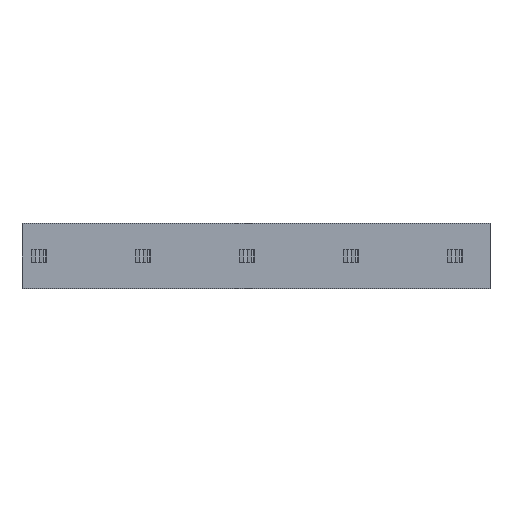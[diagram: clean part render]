
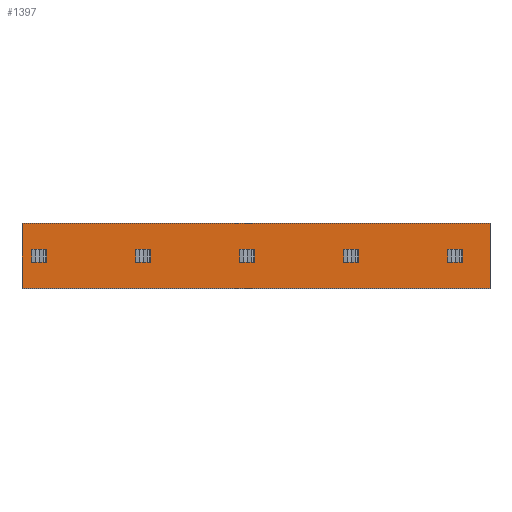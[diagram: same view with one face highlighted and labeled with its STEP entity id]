
A CAD part, top view. The second image highlights one B-rep face of the part: STEP entity #1397.
In plain terms, the highlighted planar face has unit normal (0, 0, 1).
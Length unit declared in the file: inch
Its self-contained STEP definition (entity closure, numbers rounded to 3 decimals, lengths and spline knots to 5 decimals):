
#119=FACE_OUTER_BOUND('',#217,.T.);
#217=EDGE_LOOP('',(#939,#940,#941,#942));
#311=LINE('',#2104,#467);
#315=LINE('',#2112,#471);
#318=LINE('',#2118,#474);
#321=LINE('',#2123,#477);
#467=VECTOR('',#1648,10.);
#471=VECTOR('',#1654,72.);
#474=VECTOR('',#1659,10.);
#477=VECTOR('',#1664,72.);
#623=VERTEX_POINT('',#2102);
#624=VERTEX_POINT('',#2103);
#627=VERTEX_POINT('',#2111);
#629=VERTEX_POINT('',#2117);
#727=EDGE_CURVE('',#623,#624,#311,.T.);
#731=EDGE_CURVE('',#624,#627,#315,.T.);
#734=EDGE_CURVE('',#627,#629,#318,.T.);
#737=EDGE_CURVE('',#629,#623,#321,.T.);
#939=ORIENTED_EDGE('',*,*,#727,.F.);
#940=ORIENTED_EDGE('',*,*,#737,.F.);
#941=ORIENTED_EDGE('',*,*,#734,.F.);
#942=ORIENTED_EDGE('',*,*,#731,.F.);
#1319=PLANE('',#1499);
#1397=ADVANCED_FACE('',(#119),#1319,.T.);
#1499=AXIS2_PLACEMENT_3D('',#2125,#1666,#1667);
#1648=DIRECTION('',(0.,-1.,0.));
#1654=DIRECTION('',(-1.,0.,0.));
#1659=DIRECTION('',(0.,1.,0.));
#1664=DIRECTION('',(1.,0.,0.));
#1666=DIRECTION('center_axis',(0.,0.,1.));
#1667=DIRECTION('ref_axis',(1.,0.,0.));
#2102=CARTESIAN_POINT('',(36.,5.,0.0593));
#2103=CARTESIAN_POINT('',(36.,-5.,0.0593));
#2104=CARTESIAN_POINT('',(36.,5.,0.0593));
#2111=CARTESIAN_POINT('',(-36.,-5.,0.0593));
#2112=CARTESIAN_POINT('',(36.,-5.,0.0593));
#2117=CARTESIAN_POINT('',(-36.,5.,0.0593));
#2118=CARTESIAN_POINT('',(-36.,-5.,0.0593));
#2123=CARTESIAN_POINT('',(-36.,5.,0.0593));
#2125=CARTESIAN_POINT('Origin',(0.,0.,
0.0593));
